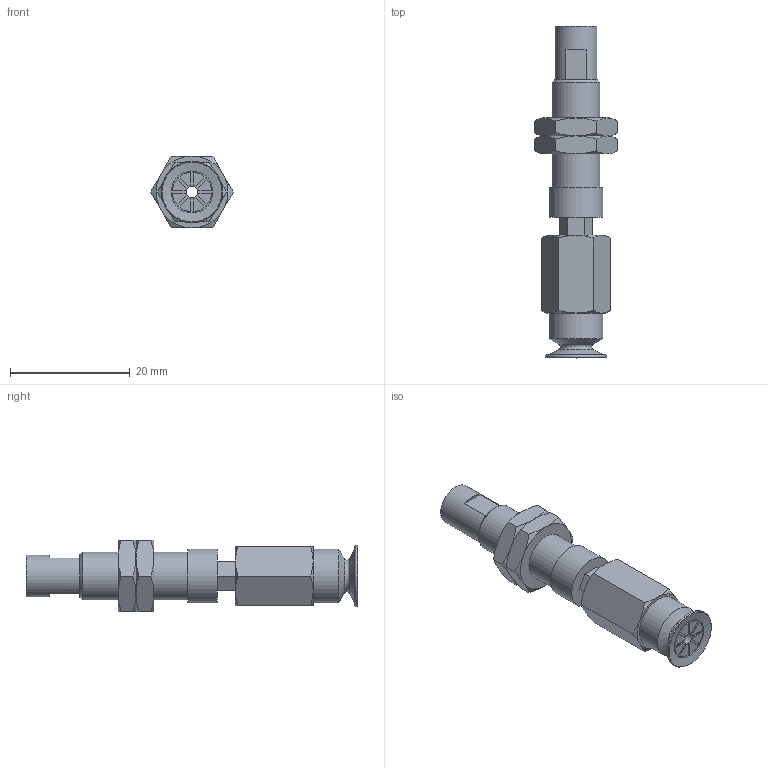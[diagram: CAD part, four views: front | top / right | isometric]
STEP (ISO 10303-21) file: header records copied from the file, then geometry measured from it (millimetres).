
FILE_DESCRIPTION(('STEP AP203'),'1');
FILE_NAME('.stp','2025-08-12T07:58:25',(' '),(' '),'Spatial InterOp 3D',' ',' ');
FILE_SCHEMA(('CONFIG_CONTROL_DESIGN'));
Length unit declared in the file: millimetre
Products named in the file (6): BNABPATH-10B-3-※; NAPATH-10A-3--F; Nut-10A-S; BPAG-10B-※; NAPATH-10A-3--M; ADAPTER
Assembly tree (6 placements, depth 2):
  BNABPATH-10B-3-※
    NAPATH-10A-3--F
    Nut-10A-S  x2
    BPAG-10B-※
    NAPATH-10A-3--M
    ADAPTER
Bounding box: 13.86 x 55.5 x 12 mm (x, y, z)
Volume: 3405.8 mm3; surface area: 3989 mm2
Topology: 6 solids, 6 shells, 157 faces, 364 edges, 226 vertices
Faces by surface type: plane 77, cone 46, cylinder 23, torus 11
Full cylindrical faces by diameter (mm): 2 x3, 4 x2, 4.134 x1, 6 x2, 7 x2, 7.188 x2, 8 x1, 9 x2
Entity records: 4098 total; most frequent: CARTESIAN_POINT 893, DIRECTION 612, ORIENTED_EDGE 548, EDGE_CURVE 274, AXIS2_PLACEMENT_3D 245, VERTEX_POINT 190, EDGE_LOOP 184, FACE_OUTER_BOUND 159
